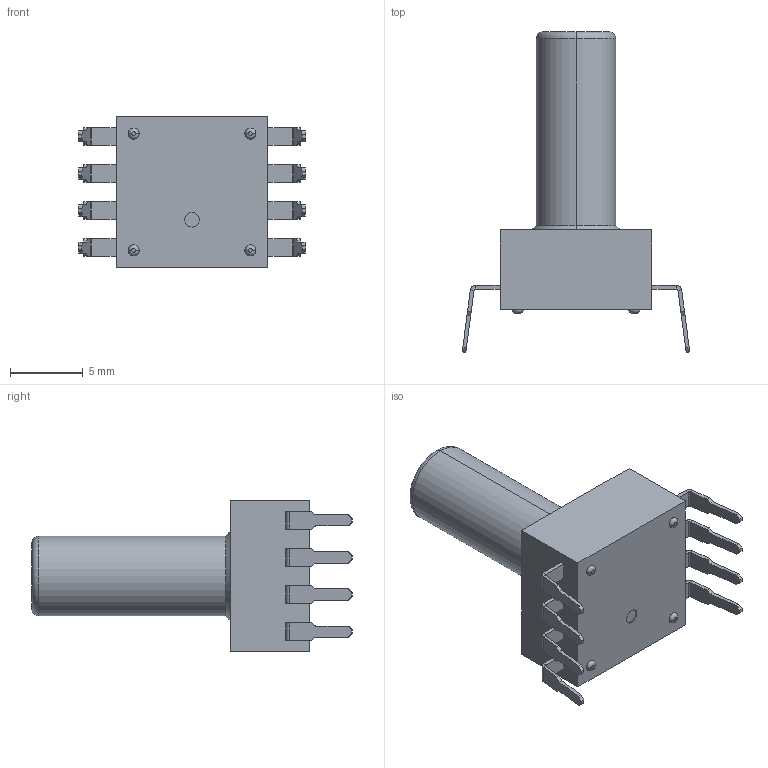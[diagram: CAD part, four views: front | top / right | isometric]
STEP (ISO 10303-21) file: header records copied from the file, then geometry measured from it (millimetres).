
FILE_DESCRIPTION (( 'STEP AP214' ), '1' );
FILE_NAME ('adp51b62.step', '2012-06-19T02:38:48', ( '' ), ( '(C)Panasonic Corporation 2012' ), '', '', '' );
FILE_SCHEMA (( 'AUTOMOTIVE_DESIGN' ));
Length unit declared in the file: millimetre
Products named in the file (1): adp51b62
Bounding box: 15.59 x 21.98 x 10.4 mm (x, y, z)
Volume: 895.4 mm3; surface area: 864.3 mm2
Topology: 9 solids, 9 shells, 193 faces, 434 edges, 266 vertices
Faces by surface type: plane 157, cylinder 22, torus 10, cone 4
Entity records: 5350 total; most frequent: DIRECTION 898, CARTESIAN_POINT 894, ORIENTED_EDGE 868, EDGE_CURVE 434, VECTOR 358, LINE 358, AXIS2_PLACEMENT_3D 270, VERTEX_POINT 266
